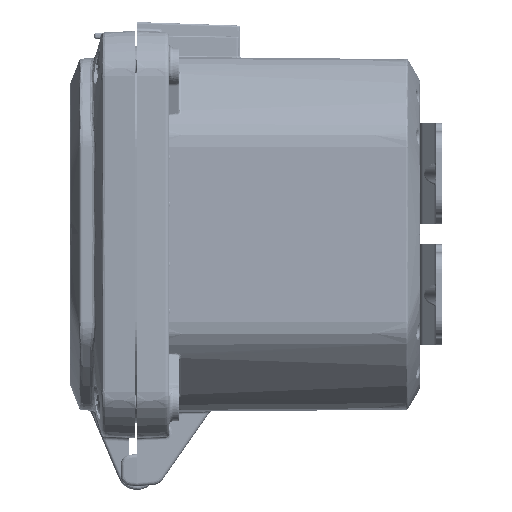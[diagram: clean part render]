
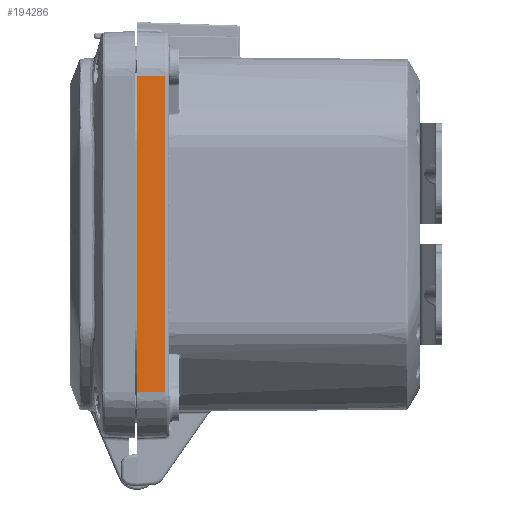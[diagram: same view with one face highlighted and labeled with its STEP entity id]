
A CAD part, left-side view. The second image highlights one B-rep face of the part: STEP entity #194286.
In plain terms, the highlighted planar face has unit normal (-0.999, -0.035, 0).
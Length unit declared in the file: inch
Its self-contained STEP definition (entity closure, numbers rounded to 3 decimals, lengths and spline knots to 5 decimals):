
#4877 = DIRECTION ( 'NONE',  ( -0.999, -0.035, 0. ) ) ;
#6685 = ORIENTED_EDGE ( 'NONE', *, *, #129791, .F. ) ;
#6890 = ORIENTED_EDGE ( 'NONE', *, *, #36861, .F. ) ;
#9078 = VECTOR ( 'NONE', #103421, 39.37008 ) ;
#19407 = DIRECTION ( 'NONE',  ( 0., 0., 1. ) ) ;
#20480 = LINE ( 'NONE', #119585, #205806 ) ;
#32654 = VERTEX_POINT ( 'NONE', #206029 ) ;
#35106 = ORIENTED_EDGE ( 'NONE', *, *, #151712, .T. ) ;
#36861 = EDGE_CURVE ( 'NONE', #87625, #184223, #138303, .T. ) ;
#36866 = FACE_OUTER_BOUND ( 'NONE', #94943, .T. ) ;
#39132 = CARTESIAN_POINT ( 'NONE',  ( -3.52, 0., 1.95755 ) ) ;
#54415 = LINE ( 'NONE', #122584, #9078 ) ;
#57449 = ORIENTED_EDGE ( 'NONE', *, *, #184590, .T. ) ;
#68819 = DIRECTION ( 'NONE',  ( 0.035, -0.999, 0. ) ) ;
#71587 = LINE ( 'NONE', #115390, #122256 ) ;
#82140 = VERTEX_POINT ( 'NONE', #93052 ) ;
#84819 = CARTESIAN_POINT ( 'NONE',  ( -3.52, 0., 2.2 ) ) ;
#85962 = AXIS2_PLACEMENT_3D ( 'NONE', #84819, #4877, #68819 ) ;
#87625 = VERTEX_POINT ( 'NONE', #171723 ) ;
#93052 = CARTESIAN_POINT ( 'NONE',  ( -3.50772, -0.35174, -1.95755 ) ) ;
#94943 = EDGE_LOOP ( 'NONE', ( #57449, #6890, #6685, #35106 ) ) ;
#101480 = DIRECTION ( 'NONE',  ( 0.035, -0.999, 0. ) ) ;
#103421 = DIRECTION ( 'NONE',  ( 0., 0., 1. ) ) ;
#104163 = DIRECTION ( 'NONE',  ( 0.035, -0.999, 0. ) ) ;
#104893 = CARTESIAN_POINT ( 'NONE',  ( -3.50772, -0.35174, 1.95755 ) ) ;
#115390 = CARTESIAN_POINT ( 'NONE',  ( -3.50772, -0.35174, 1.95755 ) ) ;
#119585 = CARTESIAN_POINT ( 'NONE',  ( -3.52, 0., -1.95755 ) ) ;
#122256 = VECTOR ( 'NONE', #19407, 39.37008 ) ;
#122584 = CARTESIAN_POINT ( 'NONE',  ( -3.52, 0., 2.2 ) ) ;
#129791 = EDGE_CURVE ( 'NONE', #32654, #87625, #54415, .T. ) ;
#138303 = LINE ( 'NONE', #39132, #148282 ) ;
#148282 = VECTOR ( 'NONE', #104163, 39.37008 ) ;
#151712 = EDGE_CURVE ( 'NONE', #32654, #82140, #20480, .T. ) ;
#171723 = CARTESIAN_POINT ( 'NONE',  ( -3.52, 0., 1.95755 ) ) ;
#183978 = PLANE ( 'NONE',  #85962 ) ;
#184223 = VERTEX_POINT ( 'NONE', #104893 ) ;
#184590 = EDGE_CURVE ( 'NONE', #82140, #184223, #71587, .T. ) ;
#194286 = ADVANCED_FACE ( 'NONE', ( #36866 ), #183978, .T. ) ;
#205806 = VECTOR ( 'NONE', #101480, 39.37008 ) ;
#206029 = CARTESIAN_POINT ( 'NONE',  ( -3.52, 0., -1.95755 ) ) ;
